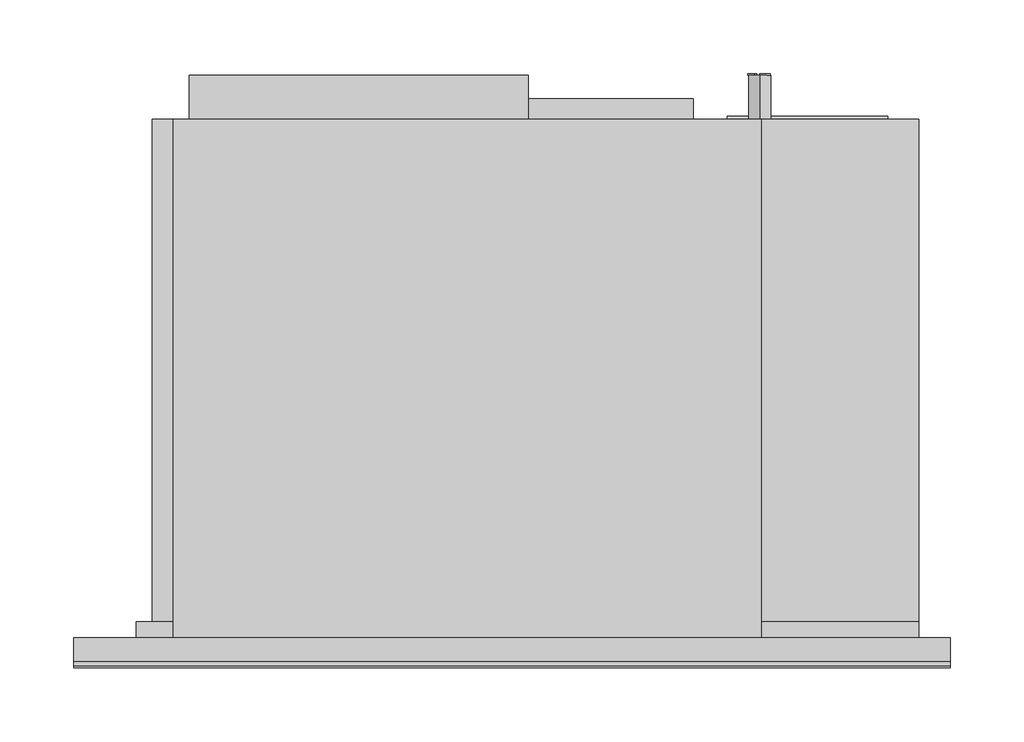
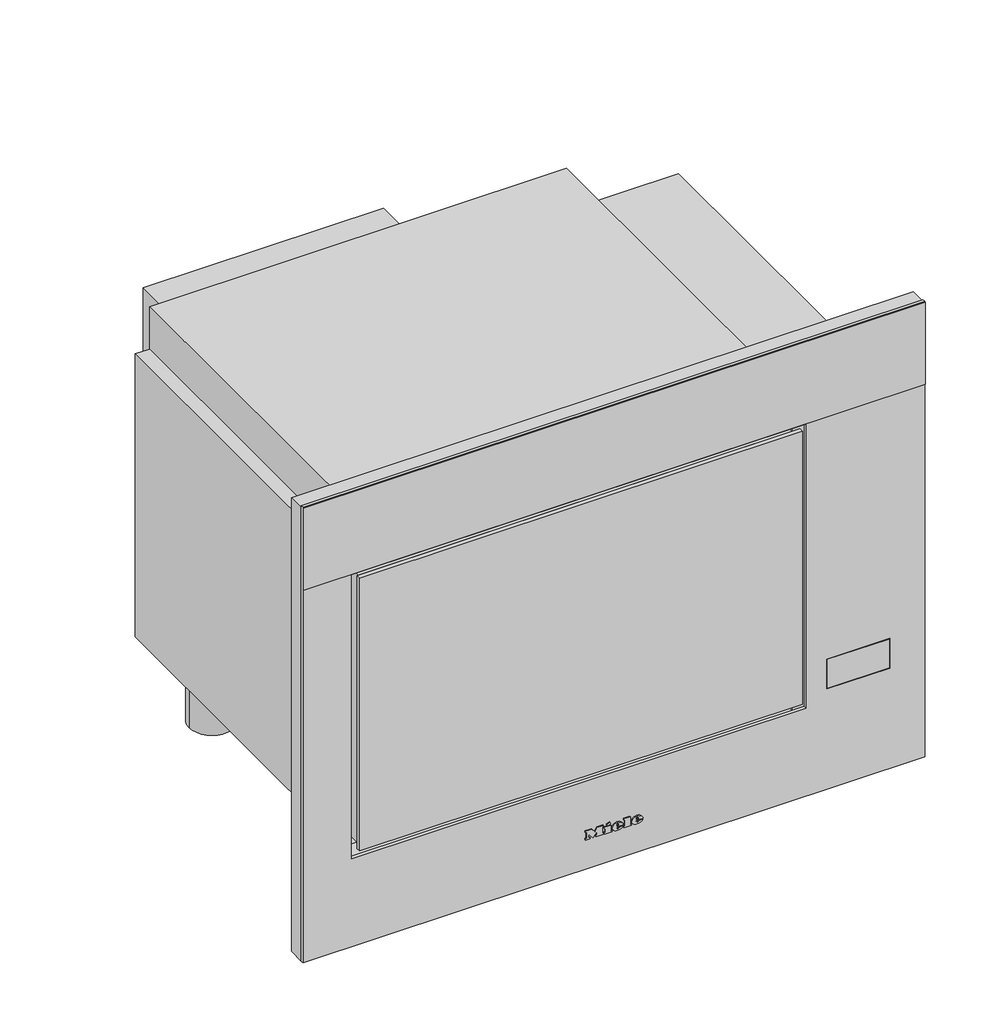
# Not in any storey: 1 proxy.
"""IFC4 building model written with IfcOpenShell, lengths in millimetres."""

import ifcopenshell
import ifcopenshell.guid

model = None  # the IFC model being written
_history = None  # IfcOwnerHistory: only IFC2X3 demands one
_inside = {}  # id of a spatial element -> (the spatial element, [elements in it])
_under = {}  # id of a project, library or spatial element -> (it, [spatial elements below it])
_declared = {}  # id of a project -> (the project, [libraries it declares])
_typed = {}  # id of a type object -> (the type object, [elements of that type])
_made_of = {}  # id of a material, layer set ... -> (it, [elements and type objects made of it])


def new_model(schema):
    """Start an empty IFC model of exactly this schema.

    Asked for "IFC4X3", IfcOpenShell would pick the latest addendum, in which some entities
    have other attributes; the version numbers below select the first issue.
    IFC2X3 requires an IfcOwnerHistory on every rooted entity: one is made here for all.
    """
    global model, _history
    if schema == "IFC4X3":
        model = ifcopenshell.file(schema_version=(4, 3, 0, 0))
    else:
        model = ifcopenshell.file(schema=schema)
    _inside.clear()
    _under.clear()
    _declared.clear()
    _typed.clear()
    _made_of.clear()
    _history = None
    if model.schema == "IFC2X3":
        org = make("IfcOrganization", Name="unknown")
        user = make(
            "IfcPersonAndOrganization",
            ThePerson=make("IfcPerson", FamilyName="unknown"),
            TheOrganization=org,
        )
        app = make(
            "IfcApplication",
            ApplicationDeveloper=org,
            Version="unknown",
            ApplicationFullName="unknown",
            ApplicationIdentifier="unknown",
        )
        _history = make(
            "IfcOwnerHistory",
            OwningUser=user,
            OwningApplication=app,
            ChangeAction="ADDED",
            CreationDate=0,
        )
    return model


def make(cls, **values):
    """One entity of the class cls with the attributes given. An attribute that is None is left unset."""
    return model.create_entity(
        cls, **{name: value for name, value in values.items() if value is not None}
    )


def rooted(cls, **values):
    """An entity with a GlobalId (a new one), such as an element, a storey or a relation."""
    return make(cls, GlobalId=ifcopenshell.guid.new(), OwnerHistory=_history, **values)


def si_unit(unit_type, name, prefix=None):
    """IfcSIUnit, for example si_unit("LENGTHUNIT", "METRE", prefix="MILLI")."""
    return make("IfcSIUnit", UnitType=unit_type, Prefix=prefix, Name=name)


def assignment(units):
    """IfcUnitAssignment: the units of a project."""
    return None if units is None else make("IfcUnitAssignment", Units=units)


def point(xyz):
    """IfcCartesianPoint."""
    return None if xyz is None else make("IfcCartesianPoint", Coordinates=xyz)


def direction(xyz):
    """IfcDirection."""
    return None if xyz is None else make("IfcDirection", DirectionRatios=xyz)


def frame(location, z_axis=None, x_axis=None):
    """IfcAxis2Placement3D, a coordinate frame: its origin and axes. An axis left out is left unset."""
    return make(
        "IfcAxis2Placement3D",
        Location=point(location),
        Axis=direction(z_axis),
        RefDirection=direction(x_axis),
    )


def frame_2d(location, x_axis=None):
    """IfcAxis2Placement2D, a coordinate frame in the plane: its origin and x axis."""
    return make(
        "IfcAxis2Placement2D", Location=point(location), RefDirection=direction(x_axis)
    )


def origin():
    """The frame at (0, 0, 0) with its axes left unset."""
    return frame((0.0, 0.0, 0.0))


def origin_with_axes():
    """The frame at (0, 0, 0) with the z axis (0, 0, 1) and the x axis (1, 0, 0) written out."""
    return frame((0.0, 0.0, 0.0), z_axis=(0.0, 0.0, 1.0), x_axis=(1.0, 0.0, 0.0))


def place(relative_to, where):
    """IfcLocalPlacement: puts the frame where relative to a parent placement (None: the world)."""
    return make(
        "IfcLocalPlacement", PlacementRelTo=relative_to, RelativePlacement=where
    )


def context(
    kind, dimensions, precision=None, world=None, true_north=None, identifier=None
):
    """IfcGeometricRepresentationContext, for example the 3D "Model" context."""
    return make(
        "IfcGeometricRepresentationContext",
        ContextIdentifier=identifier,
        ContextType=kind,
        CoordinateSpaceDimension=dimensions,
        Precision=precision,
        WorldCoordinateSystem=world,
        TrueNorth=true_north,
    )


def project(units=None, contexts=None):
    """IfcProject with its units and contexts."""
    return rooted(
        "IfcProject",
        Name="project",
        RepresentationContexts=contexts,
        UnitsInContext=assignment(units),
    )


def spatial(cls, under=None, at=None, **own):
    """A site, building, storey or space (cls), placed at a placement, below another one or the project."""
    s = rooted(cls, ObjectPlacement=at, **own)
    if under is not None:
        _under.setdefault(under.id(), (under, []))[1].append(s)
    return s


def polyline(points):
    """IfcPolyline through the points."""
    return make("IfcPolyline", Points=[point(p) for p in points])


def circle_curve(where, radius):
    """IfcCircle in the frame where."""
    return make("IfcCircle", Position=where, Radius=radius)


def ellipse_curve(where, semi_axis1, semi_axis2):
    """IfcEllipse in the frame where."""
    return make(
        "IfcEllipse", Position=where, SemiAxis1=semi_axis1, SemiAxis2=semi_axis2
    )


def trimmed(basis, trim1, trim2, sense, master):
    """IfcTrimmedCurve: the piece of a basis curve between two trims."""
    return make(
        "IfcTrimmedCurve",
        BasisCurve=basis,
        Trim1=trim1,
        Trim2=trim2,
        SenseAgreement=sense,
        MasterRepresentation=master,
    )


def segment(curve, same_sense, transition):
    """IfcCompositeCurveSegment."""
    return make(
        "IfcCompositeCurveSegment",
        Transition=transition,
        SameSense=same_sense,
        ParentCurve=curve,
    )


def composite_curve(segments, self_intersect=None):
    """IfcCompositeCurve: segments joined end to end."""
    return make("IfcCompositeCurve", Segments=segments, SelfIntersect=self_intersect)


def outline(outer, holes=None, kind="AREA"):
    """IfcArbitraryClosedProfileDef: a profile drawn as a closed curve; with holes, ...WithVoids."""
    if holes is None:
        return make("IfcArbitraryClosedProfileDef", ProfileType=kind, OuterCurve=outer)
    return make(
        "IfcArbitraryProfileDefWithVoids",
        ProfileType=kind,
        OuterCurve=outer,
        InnerCurves=holes,
    )


def extrude(swept, where, along, depth):
    """IfcExtrudedAreaSolid: the profile swept, set in the frame where, extruded along a direction by depth."""
    return make(
        "IfcExtrudedAreaSolid",
        SweptArea=swept,
        Position=where,
        ExtrudedDirection=direction(along),
        Depth=depth,
    )


def faces_of(points, faces, orient=None, outer=None):
    """IfcFace entities. A face is a list of loops; a loop is a list of indices into points, from 0.

    orient and outer hold one flag for each loop. By default every Orientation is true, the
    first loop of a face is its IfcFaceOuterBound and the others are IfcFaceBound.
    """
    made = []
    for i, loops in enumerate(faces):
        bounds = []
        for j, loop in enumerate(loops):
            is_outer = j == 0 if outer is None else outer[i][j]
            bounds.append(
                make(
                    "IfcFaceOuterBound" if is_outer else "IfcFaceBound",
                    Bound=make("IfcPolyLoop", Polygon=[points[k] for k in loop]),
                    Orientation=True if orient is None else orient[i][j],
                )
            )
        made.append(make("IfcFace", Bounds=bounds))
    return made


def faceted_brep(points, faces, orient=None, outer=None, voids=None):
    """IfcFacetedBrep: a solid bounded by flat faces; with voids (closed shells), ...WithVoids."""
    shared = [point(p) for p in points]
    hull = make("IfcClosedShell", CfsFaces=faces_of(shared, faces, orient, outer))
    if voids is None:
        return make("IfcFacetedBrep", Outer=hull)
    return make(
        "IfcFacetedBrepWithVoids",
        Outer=hull,
        Voids=[
            make(cls, CfsFaces=faces_of(shared, fs, o, b)) for cls, fs, o, b in voids
        ],
    )


def shape(context_of_items, identifier, shape_type, items):
    """IfcShapeRepresentation: the items that make up one representation, for example the "Body"."""
    return make(
        "IfcShapeRepresentation",
        ContextOfItems=context_of_items,
        RepresentationIdentifier=identifier,
        RepresentationType=shape_type,
        Items=items,
    )


def source(mapping_origin, context_of_items, identifier, shape_type, items):
    """IfcRepresentationMap: a shape defined once, which mapped items show again and again."""
    return make(
        "IfcRepresentationMap",
        MappingOrigin=mapping_origin,
        MappedRepresentation=shape(context_of_items, identifier, shape_type, items),
    )


def transform(
    local_origin,
    x_axis=None,
    y_axis=None,
    z_axis=None,
    scale=None,
    scale2=None,
    scale3=None,
    uniform=True,
):
    """IfcCartesianTransformationOperator3D, or its non-uniform kind. x_axis, y_axis, z_axis: its Axis1, 2, 3."""
    if uniform:
        return make(
            "IfcCartesianTransformationOperator3D",
            Axis1=direction(x_axis),
            Axis2=direction(y_axis),
            LocalOrigin=point(local_origin),
            Scale=scale,
            Axis3=direction(z_axis),
        )
    return make(
        "IfcCartesianTransformationOperator3DnonUniform",
        Axis1=direction(x_axis),
        Axis2=direction(y_axis),
        LocalOrigin=point(local_origin),
        Scale=scale,
        Axis3=direction(z_axis),
        Scale2=scale2,
        Scale3=scale3,
    )


def mapped(mapping_source, mapping_target):
    """IfcMappedItem: shows the shape of a source again, moved by a transform."""
    return make(
        "IfcMappedItem", MappingSource=mapping_source, MappingTarget=mapping_target
    )


def made_of(thing, what):
    """Note that an element or type object is made of a material, layer set ...; save() writes the relation."""
    if what is not None:
        _made_of.setdefault(what.id(), (what, []))[1].append(thing)
    return thing


def element(
    cls,
    number,
    at=None,
    inside=None,
    cuts=None,
    type_object=None,
    material=None,
    context=None,
    identifier="Body",
    shape_type=None,
    held_by="IfcProductDefinitionShape",
    body=None,
    shapes=None,
    **own,
):
    """One element of the class cls, such as IfcWall. Its Tag is "e" and its number.

    at: its placement. inside: the storey or other place that contains it. cuts: it is an
    opening in that element (IfcRelVoidsElement). A single representation is given by context,
    identifier, shape_type and body (its items); several are given by shapes. held_by: the class
    of the entity that holds the representations. save() writes the other relations.
    """
    e = rooted(cls, Tag="e%d" % number, ObjectPlacement=at, **own)
    if body is not None:
        shapes = [shape(context, identifier, shape_type, body)]
    if shapes is not None:
        e.Representation = make(held_by, Representations=shapes)
    if inside is not None:
        _inside.setdefault(inside.id(), (inside, []))[1].append(e)
    if cuts is not None:
        rooted(
            "IfcRelVoidsElement", RelatingBuildingElement=cuts, RelatedOpeningElement=e
        )
    if type_object is not None:
        _typed.setdefault(type_object.id(), (type_object, []))[1].append(e)
    return made_of(e, material)


def aggregate(whole, parts):
    """IfcRelAggregates: a whole, such as a stair, and the parts it consists of."""
    return rooted("IfcRelAggregates", RelatingObject=whole, RelatedObjects=parts)


def save(model, path):
    """Write the relations noted so far, then the file.

    IfcRelAggregates (storeys below a building ...), IfcRelContainedInSpatialStructure (elements
    in a storey), IfcRelDefinesByType, IfcRelAssociatesMaterial and IfcRelDeclares: one each for
    every whole, place, type object, material and project.
    """
    for whole, parts in _under.values():
        aggregate(whole, parts)
    for where, things in _inside.values():
        rooted(
            "IfcRelContainedInSpatialStructure",
            RelatedElements=things,
            RelatingStructure=where,
        )
    for kind, things in _typed.values():
        rooted("IfcRelDefinesByType", RelatedObjects=things, RelatingType=kind)
    for what, things in _made_of.values():
        rooted("IfcRelAssociatesMaterial", RelatedObjects=things, RelatingMaterial=what)
    for by, libraries in _declared.values():
        rooted("IfcRelDeclares", RelatingContext=by, RelatedDefinitions=libraries)
    model.write(path)


def plane_surface(at):
    """IfcPlane: the flat surface through the origin of the frame at, square to its z axis."""
    return make("IfcPlane", Position=at)


def cylinder_surface(at, radius):
    """IfcCylindricalSurface: all points at the distance radius from the z axis of the frame at."""
    return make("IfcCylindricalSurface", Position=at, Radius=radius)


def revolved_surface(curve, axis_point, axis_direction):
    """IfcSurfaceOfRevolution: the curve turned about the line through axis_point along axis_direction."""
    return make(
        "IfcSurfaceOfRevolution",
        SweptCurve=make("IfcArbitraryOpenProfileDef", ProfileType="CURVE", Curve=curve),
        AxisPosition=make("IfcAxis1Placement", Location=point(axis_point), Axis=direction(axis_direction)),
    )


def extruded_surface(curve, direction_of_extrusion, depth):
    """IfcSurfaceOfLinearExtrusion: the curve pushed along a direction by depth."""
    return make(
        "IfcSurfaceOfLinearExtrusion",
        SweptCurve=make("IfcArbitraryOpenProfileDef", ProfileType="CURVE", Curve=curve),
        ExtrudedDirection=direction(direction_of_extrusion),
        Depth=depth,
    )


def advanced_brep(points, edges, surfaces, faces):
    """IfcAdvancedBrep: a solid bounded by faces that lie on surfaces and meet in shared edges.

    An edge is (start, end): straight between two places in points (the first is 0);
    or (start, end, curve); or (start, end, curve, False) where it runs against its curve.
    A face is (place in surfaces, loops), or (place, loops, False) where it looks against
    its surface's normal. A loop lists edges by number (the first is 1), with a minus sign
    where the edge is run from its end to its start. The first loop is the outer one.
    """
    corners = [point(p) for p in points]
    vertices = [make("IfcVertexPoint", VertexGeometry=c) for c in corners]
    made = []
    for start, end, *more in edges:
        made.append(
            make(
                "IfcEdgeCurve",
                EdgeStart=vertices[start],
                EdgeEnd=vertices[end],
                EdgeGeometry=more[0] if more else make("IfcPolyline", Points=[corners[start], corners[end]]),
                SameSense=more[1] if len(more) > 1 else True,
            )
        )
    hull = []
    for where, loops, *sense in faces:
        bounds = []
        for j, loop in enumerate(loops):
            ring = [make("IfcOrientedEdge", EdgeElement=made[abs(k) - 1], Orientation=k > 0) for k in loop]
            bounds.append(
                make(
                    "IfcFaceOuterBound" if j == 0 else "IfcFaceBound",
                    Bound=make("IfcEdgeLoop", EdgeList=ring),
                    Orientation=True,
                )
            )
        hull.append(make("IfcAdvancedFace", Bounds=bounds, FaceSurface=surfaces[where], SameSense=sense[0] if sense else True))
    return make("IfcAdvancedBrep", Outer=make("IfcClosedShell", CfsFaces=hull))


def specialty_equipment_020fe710(model_context):
    return source(origin(), model_context, "Body", "SolidModel", [
        advanced_brep(
        [(21.28, -20.0, 27.133), (21.28, -20.0, 28.042), (27.301, -20.0, 28.042), (16.825, -20.0, 28.042), (19.3, -20.0, 25.0), (27.148, -20.0, 27.133), (24.43, -20.0, 27.133), (22.288, -20.0, 26.125), (21.28, -20.0, 29.194), (21.28, -20.0, 30.175), (22.819, -20.0, 30.175), (22.819, -20.0, 29.194), (21.28, -19.0, 27.133), (22.288, -19.0, 26.125), (24.43, -19.0, 27.133), (27.148, -19.0, 27.133), (19.3, -19.0, 25.0), (16.825, -19.0, 28.042), (27.301, -19.0, 28.042), (21.28, -19.0, 28.042), (21.28, -19.0, 29.194), (22.819, -19.0, 29.194), (22.819, -19.0, 30.175), (21.28, -19.0, 30.175)],
        [
            (0, 1),
            (1, 2),
            (2, 3, ellipse_curve(frame((22.063, -20.0, 28.042), z_axis=(0.0, -1.0, 0.0), x_axis=(-1.0, 0.0, 0.0)), 5.238, 4.329)),
            (3, 4, circle_curve(frame((20.3080491, -20.0, 28.348), z_axis=(0.0, -1.0, 0.0), x_axis=(0.0, 0.0, -1.0)), 3.4964649)),
            (4, 5, circle_curve(frame((21.9581428, -20.0, 30.724), z_axis=(0.0, -1.0, 0.0), x_axis=(0.0, 0.0, -1.0)), 6.3110933)),
            (5, 6),
            (6, 7, circle_curve(frame((22.7279412, -20.0, 27.97), z_axis=(0.0, 1.0, 0.0), x_axis=(0.0, 0.0, -1.0)), 1.896727)),
            (7, 0, circle_curve(frame((22.288, -20.0, 27.133), z_axis=(0.0, 1.0, 0.0), x_axis=(0.0, 0.0, -1.0)), 1.008)),
            (8, 9),
            (9, 10, circle_curve(frame((22.0495, -20.0, 30.175), z_axis=(0.0, 1.0, 0.0), x_axis=(0.0, 0.0, -1.0)), 0.7695)),
            (10, 11),
            (11, 8),
            (12, 13, circle_curve(frame((22.288, -19.0, 27.133), z_axis=(0.0, -1.0, 0.0), x_axis=(0.0, 0.0, -1.0)), 1.008)),
            (13, 14, circle_curve(frame((22.7279412, -19.0, 27.97), z_axis=(0.0, -1.0, 0.0), x_axis=(0.0, 0.0, -1.0)), 1.896727)),
            (14, 15),
            (15, 16, circle_curve(frame((21.9581428, -19.0, 30.724), z_axis=(0.0, 1.0, 0.0), x_axis=(0.0, 0.0, -1.0)), 6.3110933)),
            (16, 17, circle_curve(frame((20.3080491, -19.0, 28.348), z_axis=(0.0, 1.0, 0.0), x_axis=(0.0, 0.0, -1.0)), 3.4964649)),
            (17, 18, ellipse_curve(frame((22.063, -19.0, 28.042), z_axis=(0.0, 1.0, 0.0), x_axis=(-1.0, 0.0, 0.0)), 5.238, 4.329)),
            (18, 19),
            (19, 12),
            (20, 21),
            (21, 22),
            (22, 23, circle_curve(frame((22.0495, -19.0, 30.175), z_axis=(0.0, -1.0, 0.0), x_axis=(0.0, 0.0, -1.0)), 0.7695)),
            (23, 20),
            (0, 12),
            (19, 1),
            (18, 2),
            (5, 15),
            (14, 6),
            (17, 3),
            (13, 7),
            (16, 4),
            (8, 20),
            (23, 9),
            (22, 10),
            (21, 11),
        ],
        [
            plane_surface(frame((21.28, -20.0, 28.042), z_axis=(0.0, -1.0, 0.0), x_axis=(0.0, 0.0, 1.0))),
            plane_surface(frame((21.28, -19.0, 28.042), z_axis=(0.0, 1.0, 0.0), x_axis=(0.0, 0.0, -1.0))),
            plane_surface(frame((21.28, -20.0, 27.133), z_axis=(1.0, 0.0, 0.0), x_axis=(0.0, 1.0, 0.0))),
            plane_surface(frame((21.28, -20.0, 28.042), z_axis=(0.0, 0.0, -1.0), x_axis=(0.0, 1.0, 0.0))),
            plane_surface(frame((27.148, -20.0, 27.133), z_axis=(0.0, 0.0, 1.0), x_axis=(0.0, 1.0, 0.0))),
            extruded_surface(trimmed(ellipse_curve(frame((22.063, -18.0, 28.042), z_axis=(0.0, -1.0, 0.0), x_axis=(-1.0, 0.0, 0.0)), 5.238, 4.329), [point((27.301, -18.0, 28.042))], [point((16.825, -18.0, 28.042))], True, "CARTESIAN"), (0.0, -1.0, 0.0), 1.0),
            revolved_surface(polyline([(22.7279412, -19.0, 26.073273), (22.7279412, -20.0, 26.073273)]), (22.7279412, -19.0, 27.97), (0.0, 1.0, 0.0)),
            revolved_surface(polyline([(22.288, -19.0, 26.125), (22.288, -20.0, 26.125)]), (22.288, -19.0, 27.133), (0.0, 1.0, 0.0)),
            cylinder_surface(frame((20.3080491, -19.0, 28.348), z_axis=(0.0, -1.0, 0.0), x_axis=(0.0, 0.0, -1.0)), 3.4964649),
            cylinder_surface(frame((21.9581428, -19.0, 30.724), z_axis=(0.0, -1.0, 0.0), x_axis=(0.0, 0.0, -1.0)), 6.3110933),
            plane_surface(frame((21.28, -20.0, 29.194), z_axis=(1.0, 0.0, 0.0), x_axis=(0.0, 1.0, 0.0))),
            revolved_surface(polyline([(22.0495, -19.0, 29.4055), (22.0495, -20.0, 29.4055)]), (22.0495, -19.0, 30.175), (0.0, 1.0, 0.0)),
            plane_surface(frame((22.819, -20.0, 30.175), z_axis=(-1.0, 0.0, 0.0), x_axis=(0.0, 1.0, 0.0))),
            plane_surface(frame((22.819, -20.0, 29.194), z_axis=(0.0, 0.0, 1.0), x_axis=(0.0, 1.0, 0.0))),
        ],
        [
            (0, [[1, 2, 3, 4, 5, 6, 7, 8], [9, 10, 11, 12]]),
            (1, [[13, 14, 15, 16, 17, 18, 19, 20], [21, 22, 23, 24]]),
            (2, [[-1, 25, -20, 26]]),
            (3, [[-2, -26, -19, 27]]),
            (4, [[-6, 28, -15, 29]]),
            (5, [[-3, -27, -18, 30]]),
            (6, [[-7, -29, -14, 31]]),
            (7, [[-8, -31, -13, -25]]),
            (8, [[-4, -30, -17, 32]]),
            (9, [[-5, -32, -16, -28]]),
            (10, [[-9, 33, -24, 34]]),
            (11, [[-10, -34, -23, 35]]),
            (12, [[-11, -35, -22, 36]]),
            (13, [[-12, -36, -21, -33]]),
        ],
    ),
        advanced_brep(
        [(2.497, -20.0, 27.133), (2.497, -20.0, 28.042), (8.518, -20.0, 28.042), (-1.958, -20.0, 28.042), (0.517, -20.0, 25.0), (8.365, -20.0, 27.133), (5.647, -20.0, 27.133), (3.505, -20.0, 26.125), (2.497, -20.0, 29.194), (2.497, -20.0, 30.175), (4.036, -20.0, 30.175), (4.036, -20.0, 29.194), (2.497, -19.0, 27.133), (3.505, -19.0, 26.125), (5.647, -19.0, 27.133), (8.365, -19.0, 27.133), (0.517, -19.0, 25.0), (-1.958, -19.0, 28.042), (8.518, -19.0, 28.042), (2.497, -19.0, 28.042), (2.497, -19.0, 29.194), (4.036, -19.0, 29.194), (4.036, -19.0, 30.175), (2.497, -19.0, 30.175)],
        [
            (0, 1),
            (1, 2),
            (2, 3, ellipse_curve(frame((3.28, -20.0, 28.042), z_axis=(0.0, -1.0, 0.0), x_axis=(-1.0, 0.0, 0.0)), 5.238, 4.329)),
            (3, 4, circle_curve(frame((1.5250491, -20.0, 28.348), z_axis=(0.0, -1.0, 0.0), x_axis=(0.0, 0.0, -1.0)), 3.4964649)),
            (4, 5, circle_curve(frame((3.1751428, -20.0, 30.724), z_axis=(0.0, -1.0, 0.0), x_axis=(0.0, 0.0, -1.0)), 6.3110933)),
            (5, 6),
            (6, 7, circle_curve(frame((3.9449412, -20.0, 27.97), z_axis=(0.0, 1.0, 0.0), x_axis=(0.0, 0.0, -1.0)), 1.896727)),
            (7, 0, circle_curve(frame((3.505, -20.0, 27.133), z_axis=(0.0, 1.0, 0.0), x_axis=(0.0, 0.0, -1.0)), 1.008)),
            (8, 9),
            (9, 10, circle_curve(frame((3.2665, -20.0, 30.175), z_axis=(0.0, 1.0, 0.0), x_axis=(0.0, 0.0, -1.0)), 0.7695)),
            (10, 11),
            (11, 8),
            (12, 13, circle_curve(frame((3.505, -19.0, 27.133), z_axis=(0.0, -1.0, 0.0), x_axis=(0.0, 0.0, -1.0)), 1.008)),
            (13, 14, circle_curve(frame((3.9449412, -19.0, 27.97), z_axis=(0.0, -1.0, 0.0), x_axis=(0.0, 0.0, -1.0)), 1.896727)),
            (14, 15),
            (15, 16, circle_curve(frame((3.1751428, -19.0, 30.724), z_axis=(0.0, 1.0, 0.0), x_axis=(0.0, 0.0, -1.0)), 6.3110933)),
            (16, 17, circle_curve(frame((1.5250491, -19.0, 28.348), z_axis=(0.0, 1.0, 0.0), x_axis=(0.0, 0.0, -1.0)), 3.4964649)),
            (17, 18, ellipse_curve(frame((3.28, -19.0, 28.042), z_axis=(0.0, 1.0, 0.0), x_axis=(-1.0, 0.0, 0.0)), 5.238, 4.329)),
            (18, 19),
            (19, 12),
            (20, 21),
            (21, 22),
            (22, 23, circle_curve(frame((3.2665, -19.0, 30.175), z_axis=(0.0, -1.0, 0.0), x_axis=(0.0, 0.0, -1.0)), 0.7695)),
            (23, 20),
            (0, 12),
            (19, 1),
            (18, 2),
            (5, 15),
            (14, 6),
            (17, 3),
            (13, 7),
            (16, 4),
            (8, 20),
            (23, 9),
            (22, 10),
            (21, 11),
        ],
        [
            plane_surface(frame((2.497, -20.0, 28.042), z_axis=(0.0, -1.0, 0.0), x_axis=(0.0, 0.0, 1.0))),
            plane_surface(frame((2.497, -19.0, 28.042), z_axis=(0.0, 1.0, 0.0), x_axis=(0.0, 0.0, -1.0))),
            plane_surface(frame((2.497, -20.0, 27.133), z_axis=(1.0, 0.0, 0.0), x_axis=(0.0, 1.0, 0.0))),
            plane_surface(frame((2.497, -20.0, 28.042), z_axis=(0.0, 0.0, -1.0), x_axis=(0.0, 1.0, 0.0))),
            plane_surface(frame((8.365, -20.0, 27.133), z_axis=(0.0, 0.0, 1.0), x_axis=(0.0, 1.0, 0.0))),
            extruded_surface(trimmed(ellipse_curve(frame((3.28, -18.0, 28.042), z_axis=(0.0, -1.0, 0.0), x_axis=(-1.0, 0.0, 0.0)), 5.238, 4.329), [point((8.518, -18.0, 28.042))], [point((-1.958, -18.0, 28.042))], True, "CARTESIAN"), (0.0, -1.0, 0.0), 1.0),
            revolved_surface(polyline([(3.9449412, -19.0, 26.073273), (3.9449412, -20.0, 26.073273)]), (3.9449412, -19.0, 27.97), (0.0, 1.0, 0.0)),
            revolved_surface(polyline([(3.505, -19.0, 26.125), (3.505, -20.0, 26.125)]), (3.505, -19.0, 27.133), (0.0, 1.0, 0.0)),
            cylinder_surface(frame((1.5250491, -19.0, 28.348), z_axis=(0.0, -1.0, 0.0), x_axis=(0.0, 0.0, -1.0)), 3.4964649),
            cylinder_surface(frame((3.1751428, -19.0, 30.724), z_axis=(0.0, -1.0, 0.0), x_axis=(0.0, 0.0, -1.0)), 6.3110933),
            plane_surface(frame((2.497, -20.0, 29.194), z_axis=(1.0, 0.0, 0.0), x_axis=(0.0, 1.0, 0.0))),
            revolved_surface(polyline([(3.2665, -19.0, 29.4055), (3.2665, -20.0, 29.4055)]), (3.2665, -19.0, 30.175), (0.0, 1.0, 0.0)),
            plane_surface(frame((4.036, -20.0, 30.175), z_axis=(-1.0, 0.0, 0.0), x_axis=(0.0, 1.0, 0.0))),
            plane_surface(frame((4.036, -20.0, 29.194), z_axis=(0.0, 0.0, 1.0), x_axis=(0.0, 1.0, 0.0))),
        ],
        [
            (0, [[1, 2, 3, 4, 5, 6, 7, 8], [9, 10, 11, 12]]),
            (1, [[13, 14, 15, 16, 17, 18, 19, 20], [21, 22, 23, 24]]),
            (2, [[-1, 25, -20, 26]]),
            (3, [[-2, -26, -19, 27]]),
            (4, [[-6, 28, -15, 29]]),
            (5, [[-3, -27, -18, 30]]),
            (6, [[-7, -29, -14, 31]]),
            (7, [[-8, -31, -13, -25]]),
            (8, [[-4, -30, -17, 32]]),
            (9, [[-5, -32, -16, -28]]),
            (10, [[-9, 33, -24, 34]]),
            (11, [[-10, -34, -23, 35]]),
            (12, [[-11, -35, -22, 36]]),
            (13, [[-12, -36, -21, -33]]),
        ],
    ),
        extrude(outline(polyline([(33.469, -7.34), (32.011, -6.656), (33.433, -3.605), (34.891, -4.28), (33.469, -7.34)])), frame((0.0, -20.0, 0.0), z_axis=(0.0, 1.0, 0.0), x_axis=(0.0, 0.0, 1.0)), (0.0, 0.0, 1.0), 1.0),
        extrude(outline(polyline([(31.813, -9.563), (30.202, -9.563), (30.202, -8.492), (26.512, -8.492), (26.512, -9.563), (25.0, -9.563), (25.0, -2.462), (26.512, -2.462), (26.512, -3.506), (31.813, -3.506), (31.813, -9.563)])), frame((0.0, -20.0, 0.0), z_axis=(0.0, 1.0, 0.0), x_axis=(0.0, 0.0, 1.0)), (0.0, 0.0, 1.0), 1.0),
        extrude(outline(polyline([(32.533, 9.022), (32.533, 10.102), (26.512, 10.102), (26.512, 9.022), (25.0, 9.022), (25.0, 16.321), (26.512, 16.321), (26.512, 15.214), (34.0, 15.214), (34.0, 9.022), (32.533, 9.022)])), frame((0.0, -20.0, 0.0), z_axis=(0.0, 1.0, 0.0), x_axis=(0.0, 0.0, 1.0)), (0.0, 0.0, 1.0), 1.0),
        extrude(outline(polyline([(32.533, -27.5), (32.533, -26.411), (26.512, -26.411), (26.512, -27.5), (25.0, -27.5), (25.0, -23.54), (26.512, -23.54), (26.512, -24.62), (30.3341247, -24.62), (25.0, -20.597), (30.4402223, -16.556), (26.512, -16.556), (26.512, -17.663), (25.0, -17.663), (25.0, -10.481), (26.512, -10.481), (26.512, -11.624), (32.533, -11.624), (32.533, -10.481), (34.0, -10.481), (34.0, -15.962), (30.625, -18.59), (34.0, -21.227), (34.0, -27.5), (32.533, -27.5)])), frame((0.0, -20.0, 0.0), z_axis=(0.0, 1.0, 0.0), x_axis=(0.0, 0.0, 1.0)), (0.0, 0.0, 1.0), 1.0),
        extrude(outline(polyline([(455.5, 297.5), (455.5, -297.5), (-5.0, -297.5), (-5.0, 297.5), (455.5, 297.5)]), holes=[polyline([(371.0, 184.0), (84.0, 184.0), (84.0, -251.0), (371.0, -251.0), (371.0, 184.0)]), polyline([(126.5, 264.0), (96.5, 264.0), (96.5, 204.0), (126.5, 204.0), (126.5, 264.0)])]), frame((0.0, -19.0, 0.0), z_axis=(0.0, 1.0, 0.0), x_axis=(0.0, 0.0, 1.0)), (0.0, 0.0, 1.0), 3.0),
        extrude(outline(polyline([(-297.5, -19.0), (297.5, -19.0), (297.5, -20.3), (-297.5, -20.3), (-297.5, -19.0)])), frame((0.0, 0.0, 372.5), z_axis=(0.0, 0.0, 1.0), x_axis=(1.0, 0.0, 0.0)), (0.0, 0.0, 1.0), 83.0),
        extrude(outline(polyline([(204.0, -18.8), (262.0, -18.8), (262.0, -19.1), (204.0, -19.1), (204.0, -18.8)])), frame((0.0, 0.0, 301.5), z_axis=(0.0, 0.0, 1.0), x_axis=(1.0, 0.0, 0.0)), (0.0, 0.0, 1.0), 25.0),
        extrude(outline(polyline([(204.5, -16.0), (263.5, -16.0), (263.5, -19.0), (204.5, -19.0), (204.5, -16.0)])), frame((0.0, 0.0, 97.0), z_axis=(0.0, 0.0, 1.0), x_axis=(1.0, 0.0, 0.0)), (0.0, 0.0, 1.0), 29.0),
        extrude(outline(polyline([(-244.0, -16.0), (180.0, -16.0), (180.0, -20.0), (-244.0, -20.0), (-244.0, -16.0)])), frame((0.0, 0.0, 90.0), z_axis=(0.0, 0.0, 1.0), x_axis=(1.0, 0.0, 0.0)), (0.0, 0.0, 1.0), 276.0),
        extrude(outline(polyline([(-243.0, 10.0), (180.0, 10.0), (180.0, -16.0), (-243.0, -16.0), (-243.0, 10.0)])), frame((0.0, 0.0, 95.0), z_axis=(0.0, 0.0, 1.0), x_axis=(1.0, 0.0, 0.0)), (0.0, 0.0, 1.0), 271.0),
        extrude(outline(polyline([(-219.0, 382.0), (11.0, 382.0), (11.0, 352.0), (-219.0, 352.0), (-219.0, 382.0)])), frame((0.0, 0.0, 336.0), z_axis=(0.0, 0.0, 1.0), x_axis=(1.0, 0.0, 0.0)), (0.0, 0.0, 1.0), 71.0),
        extrude(outline(polyline([(348.0536781, 168.1660444), (346.7952065, 168.1660444), (346.7952065, 174.1269959), (343.8028248, 174.1269959), (343.8028248, 168.4835385), (342.5487231, 168.4835385), (342.5487231, 174.1269959), (339.2630117, 174.1269959), (339.2630117, 168.0), (338.0, 168.0), (338.0, 175.3757838), (348.0536781, 175.3757838), (348.0536781, 168.1660444)])), frame((0.0, 382.0, 0.0), z_axis=(0.0, 1.0, 0.0), x_axis=(0.0, 0.0, 1.0)), (0.0, 0.0, 1.0), 1.0),
        extrude(outline(polyline([(348.0536781, 164.8530432), (339.2543004, 164.8530432), (339.2543004, 159.8378502), (338.0, 159.8378502), (338.0, 166.1246692), (348.0536781, 166.1246692), (348.0536781, 164.8530432)])), frame((0.0, 382.0, 0.0), z_axis=(0.0, 1.0, 0.0), x_axis=(0.0, 0.0, 1.0)), (0.0, 0.0, 1.0), 1.0),
        extrude(outline(composite_curve([segment(trimmed(circle_curve(frame_2d((343.0, 168.0)), 7.5), [point((335.5, 168.0))], [point((350.5, 168.0))], False, "CARTESIAN"), True, "CONTINUOUS"), segment(trimmed(circle_curve(frame_2d((343.0, 168.0)), 7.5), [point((350.5, 168.0))], [point((335.5, 168.0))], False, "CARTESIAN"), True, "CONTINUOUS")], self_intersect=False)), frame((0.0, 352.0, 0.0), z_axis=(0.0, 1.0, 0.0), x_axis=(0.0, 0.0, 1.0)), (0.0, 0.0, 1.0), 30.0),
        extrude(outline(composite_curve([segment(trimmed(circle_curve(frame_2d((-191.0, 61.0)), 22.0), [point((-169.0, 61.0))], [point((-213.0, 61.0))], False, "CARTESIAN"), True, "CONTINUOUS"), segment(trimmed(circle_curve(frame_2d((-191.0, 61.0)), 22.0), [point((-213.0, 61.0))], [point((-169.0, 61.0))], False, "CARTESIAN"), True, "CONTINUOUS")], self_intersect=False)), origin_with_axes(), (0.0, 0.0, 1.0), 81.0),
        extrude(outline(composite_curve([segment(trimmed(circle_curve(frame_2d((229.0, 61.0)), 22.0), [point((251.0, 61.0))], [point((207.0, 61.0))], False, "CARTESIAN"), True, "CONTINUOUS"), segment(trimmed(circle_curve(frame_2d((229.0, 61.0)), 22.0), [point((207.0, 61.0))], [point((251.0, 61.0))], False, "CARTESIAN"), True, "CONTINUOUS")], self_intersect=False)), origin_with_axes(), (0.0, 0.0, 1.0), 81.0),
        extrude(outline(composite_curve([segment(trimmed(circle_curve(frame_2d((229.0, 316.0)), 22.0), [point((251.0, 316.0))], [point((207.0, 316.0))], False, "CARTESIAN"), True, "CONTINUOUS"), segment(trimmed(circle_curve(frame_2d((229.0, 316.0)), 22.0), [point((207.0, 316.0))], [point((251.0, 316.0))], False, "CARTESIAN"), True, "CONTINUOUS")], self_intersect=False)), origin_with_axes(), (0.0, 0.0, 1.0), 81.0),
        extrude(outline(composite_curve([segment(trimmed(circle_curve(frame_2d((-191.0, 316.0)), 22.0), [point((-169.0, 316.0))], [point((-213.0, 316.0))], False, "CARTESIAN"), True, "CONTINUOUS"), segment(trimmed(circle_curve(frame_2d((-191.0, 316.0)), 22.0), [point((-213.0, 316.0))], [point((-169.0, 316.0))], False, "CARTESIAN"), True, "CONTINUOUS")], self_intersect=False)), origin_with_axes(), (0.0, 0.0, 1.0), 81.0),
        faceted_brep([(172.0, 10.0, 371.0), (-253.0, 10.0, 371.0), (-253.0, 10.0, 84.0), (172.0, 10.0, 84.0), (127.0, 10.0, 327.0), (127.0, 10.0, 121.0), (-209.0, 10.0, 121.0), (-209.0, 10.0, 327.0), (172.0, 0.0, 84.0), (172.0, 0.0, 371.0), (-253.0, 0.0, 84.0), (-253.0, 0.0, 371.0), (-255.0, 11.0, 81.0), (-255.0, 11.0, 372.0), (-230.0, 11.0, 372.0), (-230.0, 11.0, 367.0), (-244.0, 11.0, 367.0), (-244.0, 11.0, 81.0), (169.0, 11.0, 372.0), (276.0, 11.0, 372.0), (276.0, 11.0, 367.0), (169.0, 11.0, 367.0), (-255.0, 0.0, 372.0), (-255.0, 0.0, 81.0), (276.0, 0.0, 81.0), (276.0, 0.0, 372.0), (169.0, 0.0, 372.0), (169.0, 0.0, 410.0), (-230.0, 0.0, 410.0), (-230.0, 0.0, 372.0), (276.0, 352.0, 81.0), (276.0, 352.0, 367.0), (-244.0, 352.0, 81.0), (127.0, 350.0, 327.0), (-209.0, 350.0, 327.0), (-209.0, 350.0, 121.0), (127.0, 350.0, 121.0), (-244.0, 352.0, 367.0), (-230.0, 352.0, 367.0), (-230.0, 352.0, 410.0), (169.0, 352.0, 410.0), (169.0, 352.0, 367.0)], [[[0, 1, 2, 3], [4, 5, 6, 7]], [[0, 3, 8, 9]], [[3, 2, 10, 8]], [[2, 1, 11, 10]], [[1, 0, 9, 11]], [[12, 13, 14, 15, 16, 17]], [[18, 19, 20, 21]], [[22, 23, 24, 25, 26, 27, 28, 29], [9, 8, 10, 11]], [[25, 19, 18, 26]], [[13, 22, 29, 14]], [[19, 25, 24, 30, 31, 20]], [[23, 12, 17, 32, 30, 24]], [[13, 12, 23, 22]], [[33, 34, 35, 36]], [[33, 36, 5, 4]], [[36, 35, 6, 5]], [[35, 34, 7, 6]], [[34, 33, 4, 7]], [[30, 32, 37, 38, 39, 40, 41, 31]], [[37, 32, 17, 16]], [[38, 37, 16, 15]], [[39, 38, 15, 14, 29, 28]], [[28, 27, 40, 39]], [[41, 40, 27, 26, 18, 21]], [[31, 41, 21, 20]]]),
        extrude(outline(polyline([(146.0, 354.0), (255.0, 354.0), (255.0, 352.0), (146.0, 352.0), (146.0, 354.0)])), frame((0.0, 0.0, 152.1865515), z_axis=(0.0, 0.0, 1.0), x_axis=(1.0, 0.0, 0.0)), (0.0, 0.0, 1.0), 164.8134485),
        extrude(outline(polyline([(-205.0, 366.0), (123.0, 366.0), (123.0, 352.0), (-205.0, 352.0), (-205.0, 366.0)])), frame((0.0, 0.0, 124.0), z_axis=(0.0, 0.0, 1.0), x_axis=(1.0, 0.0, 0.0)), (0.0, 0.0, 1.0), 169.0),
        extrude(outline(polyline([(454.0, 297.5), (454.0, -297.5), (-5.0, -297.5), (-5.0, 297.5), (454.0, 297.5)]), holes=[polyline([(371.0, 172.0), (84.0, 172.0), (84.0, -253.0), (371.0, -253.0), (371.0, 172.0)])]), frame((0.0, -16.0, 0.0), z_axis=(0.0, 1.0, 0.0), x_axis=(0.0, 0.0, 1.0)), (0.0, 0.0, 1.0), 16.0),
    ])


model = new_model("IFC4")

# Units and contexts
model_context = context("Model", 3, world=origin())
ifc_project = project(units=[si_unit("LENGTHUNIT", "METRE", prefix="MILLI")], contexts=[model_context])

# Site, building
site = spatial("IfcSite", under=ifc_project)
building = spatial("IfcBuilding", under=site)

# Proxy
placement = place(None, origin())
specialty_equipment_shape = specialty_equipment_020fe710(model_context)
element("IfcBuildingElementProxy", 1, Name="11370020_AUS_M2240SC_EDST-CLST : 24224040_AUS_11370020_M2240SC_EDST-CLST", ObjectType="11370020_AUS_M2240SC_EDST-CLST : 24224040_AUS_11370020_M2240SC_EDST-CLST", at=placement, inside=building, context=model_context, shape_type="MappedRepresentation", body=[
    mapped(specialty_equipment_shape, transform((0.0, 0.0, 0.0), x_axis=(1.0, 0.0, 0.0), y_axis=(0.0, 1.0, 0.0), z_axis=(0.0, 0.0, 1.0))),
])

save(model, "model.ifc")
